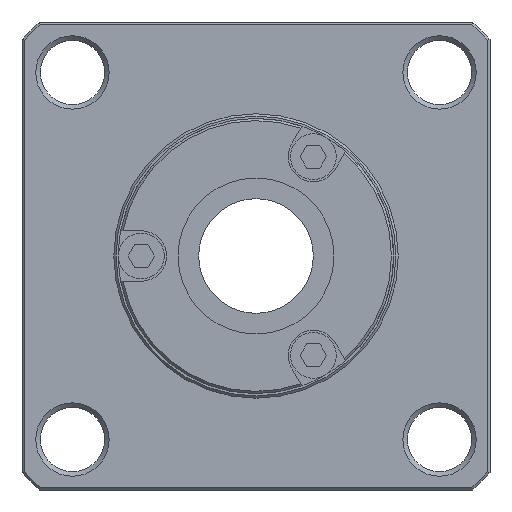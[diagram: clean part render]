
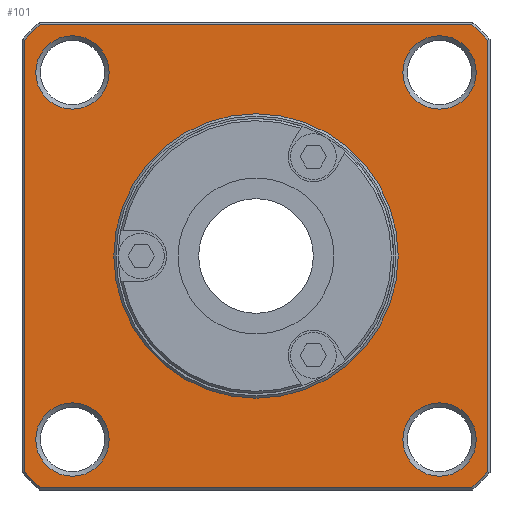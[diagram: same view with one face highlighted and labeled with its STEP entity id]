
A CAD part, left-side view. The second image highlights one B-rep face of the part: STEP entity #101.
In plain terms, the highlighted planar face has unit normal (-1, 0, 0).
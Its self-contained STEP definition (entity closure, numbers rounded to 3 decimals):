
#101=ADVANCED_FACE('',(#312,#313,#314,#315,#316,#317),#318,.T.);
#312=FACE_BOUND('',#730,.T.);
#313=FACE_BOUND('',#731,.T.);
#314=FACE_BOUND('',#732,.T.);
#315=FACE_BOUND('',#733,.T.);
#316=FACE_OUTER_BOUND('',#734,.T.);
#317=FACE_BOUND('',#735,.T.);
#318=PLANE('',#736);
#730=EDGE_LOOP('',(#1267));
#731=EDGE_LOOP('',(#1268));
#732=EDGE_LOOP('',(#1269));
#733=EDGE_LOOP('',(#1270));
#734=EDGE_LOOP('',(#1271,#1272,#1273,#1274,#1275,#1276,#1277,#1278));
#735=EDGE_LOOP('',(#1279));
#736=AXIS2_PLACEMENT_3D('',#1280,#1281,#1282);
#1267=ORIENTED_EDGE('',*,*,#2466,.T.);
#1268=ORIENTED_EDGE('',*,*,#2467,.T.);
#1269=ORIENTED_EDGE('',*,*,#2468,.T.);
#1270=ORIENTED_EDGE('',*,*,#2469,.T.);
#1271=ORIENTED_EDGE('',*,*,#2446,.T.);
#1272=ORIENTED_EDGE('',*,*,#2443,.T.);
#1273=ORIENTED_EDGE('',*,*,#2470,.T.);
#1274=ORIENTED_EDGE('',*,*,#2471,.T.);
#1275=ORIENTED_EDGE('',*,*,#2472,.T.);
#1276=ORIENTED_EDGE('',*,*,#2473,.T.);
#1277=ORIENTED_EDGE('',*,*,#2452,.T.);
#1278=ORIENTED_EDGE('',*,*,#2449,.T.);
#1279=ORIENTED_EDGE('',*,*,#2474,.F.);
#1280=CARTESIAN_POINT('',(5.0,31.0,0.0));
#1281=DIRECTION('',(-1.0,0.0,0.0));
#1282=DIRECTION('',(0.0,0.0,1.0));
#2443=EDGE_CURVE('',#2870,#2875,#2877,.T.);
#2446=EDGE_CURVE('',#2878,#2870,#2882,.T.);
#2449=EDGE_CURVE('',#2883,#2878,#2887,.T.);
#2452=EDGE_CURVE('',#2888,#2883,#2892,.T.);
#2466=EDGE_CURVE('',#2919,#2919,#2920,.F.);
#2467=EDGE_CURVE('',#2921,#2921,#2922,.F.);
#2468=EDGE_CURVE('',#2923,#2923,#2924,.F.);
#2469=EDGE_CURVE('',#2925,#2925,#2926,.F.);
#2470=EDGE_CURVE('',#2875,#2927,#2928,.T.);
#2471=EDGE_CURVE('',#2927,#2929,#2930,.T.);
#2472=EDGE_CURVE('',#2929,#2931,#2932,.T.);
#2473=EDGE_CURVE('',#2931,#2888,#2933,.T.);
#2474=EDGE_CURVE('',#2934,#2934,#2935,.T.);
#2870=VERTEX_POINT('',#3588);
#2875=VERTEX_POINT('',#3597);
#2877=LINE('',#3602,#3603);
#2878=VERTEX_POINT('',#3604);
#2882=CIRCLE('',#3611,69.0);
#2883=VERTEX_POINT('',#3612);
#2887=LINE('',#3620,#3621);
#2888=VERTEX_POINT('',#3622);
#2892=CIRCLE('',#3629,69.0);
#2919=VERTEX_POINT('',#3721);
#2920=CIRCLE('',#3722,8.0);
#2921=VERTEX_POINT('',#3723);
#2922=CIRCLE('',#3724,8.0);
#2923=VERTEX_POINT('',#3725);
#2924=CIRCLE('',#3726,8.0);
#2925=VERTEX_POINT('',#3727);
#2926=CIRCLE('',#3728,8.0);
#2927=VERTEX_POINT('',#3729);
#2928=CIRCLE('',#3730,69.0);
#2929=VERTEX_POINT('',#3731);
#2930=LINE('',#3732,#3733);
#2931=VERTEX_POINT('',#3734);
#2932=CIRCLE('',#3735,69.0);
#2933=LINE('',#3736,#3737);
#2934=VERTEX_POINT('',#3738);
#2935=CIRCLE('',#3739,31.0);
#3588=CARTESIAN_POINT('',(5.0,47.019,-50.5));
#3597=CARTESIAN_POINT('',(5.0,-47.019,-50.5));
#3602=CARTESIAN_POINT('',(5.0,31.0,-50.5));
#3603=VECTOR('',#4741,1.0);
#3604=CARTESIAN_POINT('',(5.0,50.5,-47.019));
#3611=AXIS2_PLACEMENT_3D('',#4745,#4746,#4747);
#3612=CARTESIAN_POINT('',(5.0,50.5,47.019));
#3620=CARTESIAN_POINT('',(5.0,50.5,0.0));
#3621=VECTOR('',#4749,1.0);
#3622=CARTESIAN_POINT('',(5.0,47.019,50.5));
#3629=AXIS2_PLACEMENT_3D('',#4753,#4754,#4755);
#3721=CARTESIAN_POINT('',(5.0,40.0,48.0));
#3722=AXIS2_PLACEMENT_3D('',#4792,#4793,#4794);
#3723=CARTESIAN_POINT('',(5.0,-40.0,48.0));
#3724=AXIS2_PLACEMENT_3D('',#4795,#4796,#4797);
#3725=CARTESIAN_POINT('',(5.0,40.0,-32.0));
#3726=AXIS2_PLACEMENT_3D('',#4798,#4799,#4800);
#3727=CARTESIAN_POINT('',(5.0,-40.0,-32.0));
#3728=AXIS2_PLACEMENT_3D('',#4801,#4802,#4803);
#3729=CARTESIAN_POINT('',(5.0,-50.5,-47.019));
#3730=AXIS2_PLACEMENT_3D('',#4804,#4805,#4806);
#3731=CARTESIAN_POINT('',(5.0,-50.5,47.019));
#3732=CARTESIAN_POINT('',(5.0,-50.5,0.0));
#3733=VECTOR('',#4807,1.0);
#3734=CARTESIAN_POINT('',(5.0,-47.019,50.5));
#3735=AXIS2_PLACEMENT_3D('',#4808,#4809,#4810);
#3736=CARTESIAN_POINT('',(5.0,31.0,50.5));
#3737=VECTOR('',#4811,1.0);
#3738=CARTESIAN_POINT('',(5.0,0.0,31.0));
#3739=AXIS2_PLACEMENT_3D('',#4812,#4813,#4814);
#4741=DIRECTION('',(0.0,-1.0,0.0));
#4745=CARTESIAN_POINT('',(5.0,0.0,0.0));
#4746=DIRECTION('',(-1.0,0.0,0.0));
#4747=DIRECTION('',(0.0,0.0,1.0));
#4749=DIRECTION('',(0.0,0.0,-1.0));
#4753=CARTESIAN_POINT('',(5.0,0.0,0.0));
#4754=DIRECTION('',(-1.0,0.0,0.0));
#4755=DIRECTION('',(0.0,0.0,1.0));
#4792=CARTESIAN_POINT('',(5.0,40.0,40.0));
#4793=DIRECTION('',(-1.0,0.0,0.0));
#4794=DIRECTION('',(0.0,0.0,1.0));
#4795=CARTESIAN_POINT('',(5.0,-40.0,40.0));
#4796=DIRECTION('',(-1.0,0.0,0.0));
#4797=DIRECTION('',(0.0,0.0,1.0));
#4798=CARTESIAN_POINT('',(5.0,40.0,-40.0));
#4799=DIRECTION('',(-1.0,0.0,0.0));
#4800=DIRECTION('',(0.0,0.0,1.0));
#4801=CARTESIAN_POINT('',(5.0,-40.0,-40.0));
#4802=DIRECTION('',(-1.0,0.0,0.0));
#4803=DIRECTION('',(0.0,0.0,1.0));
#4804=CARTESIAN_POINT('',(5.0,0.0,0.0));
#4805=DIRECTION('',(-1.0,0.0,0.0));
#4806=DIRECTION('',(0.0,0.0,1.0));
#4807=DIRECTION('',(0.0,0.0,1.0));
#4808=CARTESIAN_POINT('',(5.0,0.0,0.0));
#4809=DIRECTION('',(-1.0,0.0,0.0));
#4810=DIRECTION('',(0.0,0.0,1.0));
#4811=DIRECTION('',(0.0,1.0,0.0));
#4812=CARTESIAN_POINT('',(5.0,0.0,0.0));
#4813=DIRECTION('',(-1.0,0.0,0.0));
#4814=DIRECTION('',(0.0,0.0,1.0));
